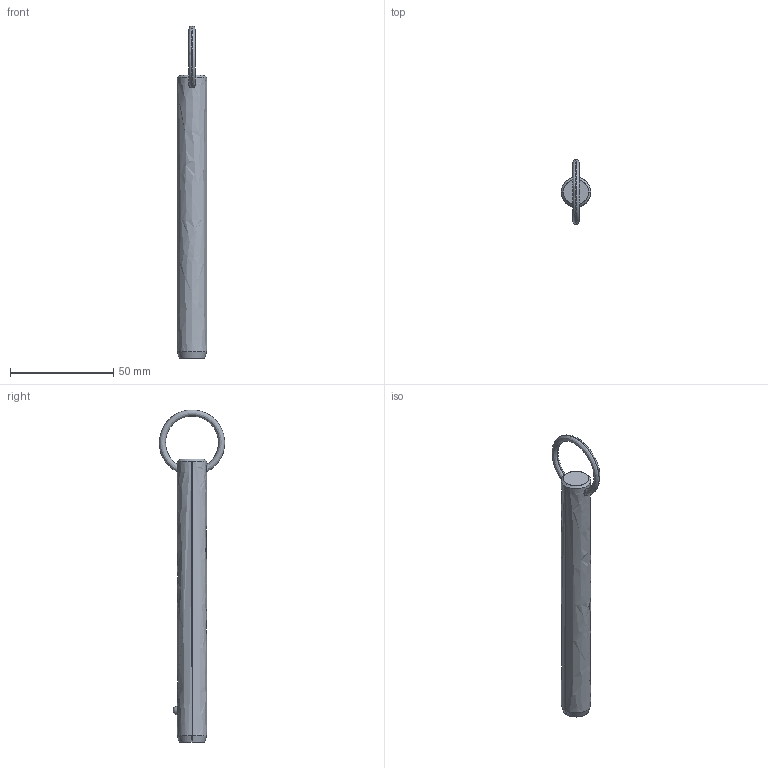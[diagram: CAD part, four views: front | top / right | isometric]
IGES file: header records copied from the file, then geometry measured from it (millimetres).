
Start section: SolidWorks IGES file using analytic representation for surfaces
Global section: file name: C:\Users\liam_\OneDrive\Documents\WORK\Work for WixRoyd\Job Files\J-00019 - Matt Davis CAD Checking\04. CAD Drawings\automotion20190605\P1250.2_v2\P1250.2_v2_20190729_IGES\P1250.056-440.igs; native system: SolidWorks 2017; preprocessor: SolidWorks 2017; author: liam_; date: 190729.232307; units: millimetre
Bounding box: 14.2 x 31.7 x 160.89 mm (x, y, z)
Surface area: 7082 mm2 (no closed solid volume)
Topology: 0 solids, 0 shells, 12 faces, 285 edges, 283 vertices
Faces by surface type: revolution 8, bspline 4
